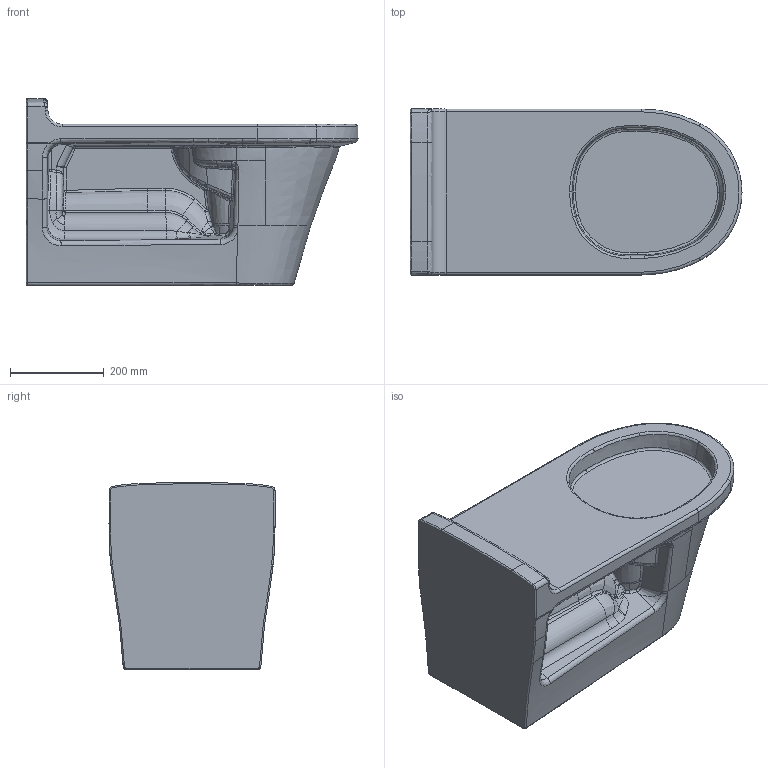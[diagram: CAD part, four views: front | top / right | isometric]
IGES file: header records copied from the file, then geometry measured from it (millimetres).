
Start section:  PTC IGES file: cw142y-web.igs
Global section: file name: cw142y-web.igs; native system: Creo Parametric by PTC Inc.; preprocessor: 2015290; author: Uporabnik; organization: Unknown; date: 20170607.140841; units: millimetre
Bounding box: 710 x 355.09 x 399.79 mm (x, y, z)
Volume: 40102535.1 mm3; surface area: 1352994 mm2
Topology: 1 solids, 2 shells, 555 faces, 1361 edges, 801 vertices
Faces by surface type: bspline 430, revolution 125
